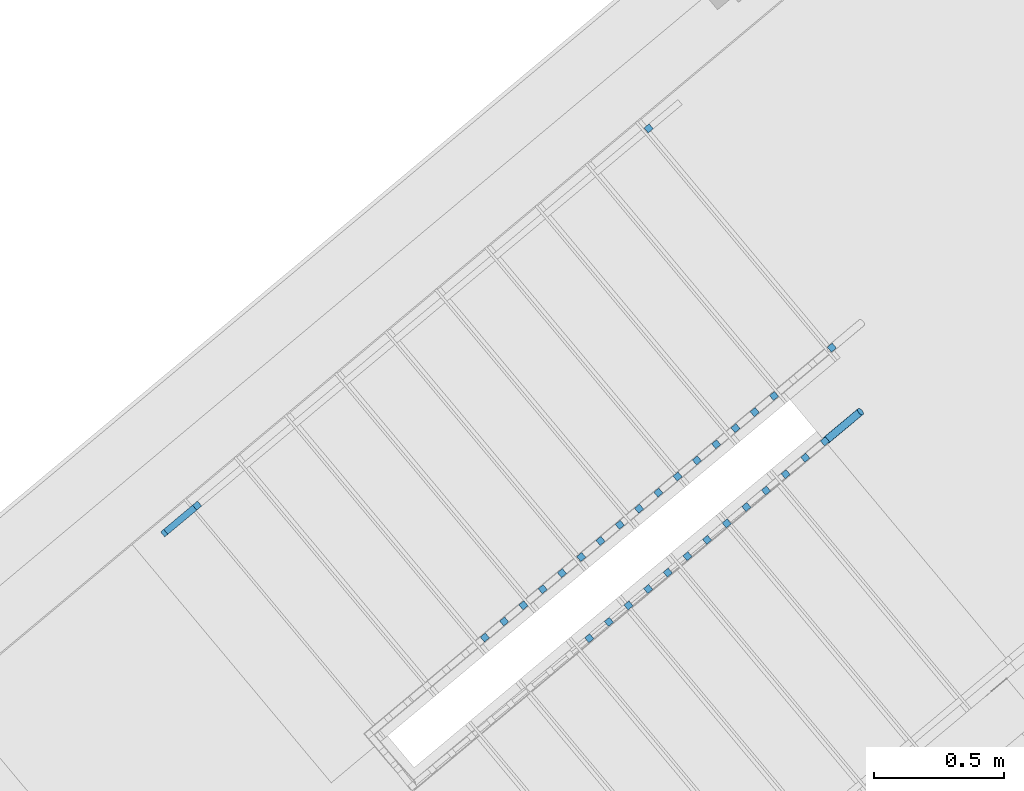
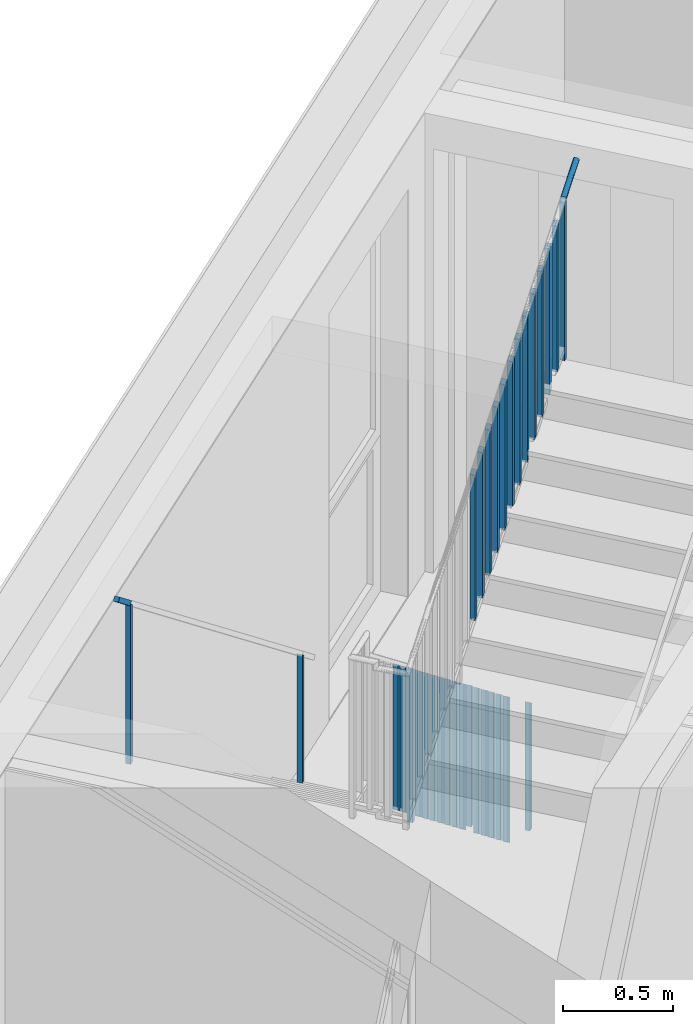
# One storey, part 46 of 58: 34 building element parts, 2 elements without a shape of their own.
"""IFC4 building model written with IfcOpenShell, lengths in metres."""

from ifc_helpers import new_model, entity, si_unit, converted_unit, derived_unit, direction, frame, origin_with_axes, place, context, subcontext, project, spatial, polygons, material, type_object, element, aggregate, save


model = new_model("IFC4")

# Units and contexts
model_context = context("Model", 3, precision=1e-05, world=origin_with_axes(), true_north=direction((0.0, 1.0)))
body_context = subcontext(model_context, "Body", "Model", "MODEL_VIEW")
ifc_project = project(units=[si_unit("LENGTHUNIT", "METRE"), si_unit("AREAUNIT", "SQUARE_METRE"), si_unit("VOLUMEUNIT", "CUBIC_METRE"), converted_unit("PLANEANGLEUNIT", "DEGREE", entity("IfcPlaneAngleMeasure", 0.0174532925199), si_unit("PLANEANGLEUNIT", "RADIAN"), dimensions=[0, 0, 0, 0, 0, 0, 0]), converted_unit("TIMEUNIT", "Year", entity("IfcTimeMeasure", 31556926.0), si_unit("TIMEUNIT", "SECOND"), dimensions=[0, 0, 1, 0, 0, 0, 0]), si_unit("MASSUNIT", "GRAM", prefix="KILO"), si_unit("THERMODYNAMICTEMPERATUREUNIT", "DEGREE_CELSIUS"), si_unit("LUMINOUSINTENSITYUNIT", "LUMEN"), si_unit("ENERGYUNIT", "JOULE", prefix="MEGA"), derived_unit("THERMALCONDUCTANCEUNIT", [(si_unit("POWERUNIT", "WATT"), 1), (si_unit("LENGTHUNIT", "METRE"), -1), (si_unit("THERMODYNAMICTEMPERATUREUNIT", "KELVIN"), -1)]), derived_unit("SPECIFICHEATCAPACITYUNIT", [(si_unit("ENERGYUNIT", "JOULE"), 1), (si_unit("MASSUNIT", "GRAM", prefix="KILO"), -1), (si_unit("THERMODYNAMICTEMPERATUREUNIT", "KELVIN"), -1)]), derived_unit("MASSDENSITYUNIT", [(si_unit("MASSUNIT", "GRAM", prefix="KILO"), 1), (si_unit("VOLUMEUNIT", "CUBIC_METRE"), -1)])], contexts=[model_context])

# Site, building, storey
site_placement = place(None, frame((-0.00153261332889, -0.00661245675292, 0.0), z_axis=(0.0, 0.0, 1.0), x_axis=(1.0, 0.0, 0.0)))
site = spatial("IfcSite", under=ifc_project, at=site_placement, Name="Site", CompositionType="ELEMENT")
building_placement = place(site_placement, origin_with_axes())
building = spatial("IfcBuilding", under=site, at=building_placement, Name="Building", CompositionType="ELEMENT")
storey_placement = place(building_placement, frame((0.0, 0.0, 5.7), z_axis=(0.0, 0.0, 1.0), x_axis=(1.0, 0.0, 0.0)))
storey = spatial("IfcBuildingStorey", under=building, at=storey_placement, Name="DG1", CompositionType="ELEMENT", Elevation=5.7)

# Railing, building element parts
railing_type = type_object("IfcRailingType", Name="Geländerart", PredefinedType="NOTDEFINED")
railing_1_placement = place(storey_placement, frame((-0.398547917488, 23.8355657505, 0.05), z_axis=(0.0, 0.0, 1.0), x_axis=(1.0, 0.0, 0.0)))
railing_1 = element("IfcRailing", 1, at=railing_1_placement, inside=storey, type_object=railing_type, Name="Geländer - 001", PredefinedType="NOTDEFINED")
ifc_material = material(Name="BEKLEIDUNG")
building_element_part_1_placement = place(railing_1_placement, origin_with_axes())
building_element_part_1 = element("IfcBuildingElementPart", 2, at=building_element_part_1_placement, material=ifc_material, Name="BEKLEIDUNG", PredefinedType="NOTDEFINED", context=body_context, shape_type="Tessellation", body=[
    polygons([(-0.0496656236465, 0.0399477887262, 0.177058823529), (-0.0336363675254, 0.0207628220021, 0.177058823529), (-0.0336363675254, 0.0207628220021, 0.889746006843), (-0.0496656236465, 0.0399477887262, 0.889746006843), (-0.0304806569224, 0.0559770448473, 0.177058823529), (-0.0144514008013, 0.0367920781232, 0.177058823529), (-0.0144514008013, 0.0367920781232, 0.870253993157), (-0.0304806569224, 0.0559770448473, 0.870253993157)], [[[1, 2, 3, 4]], [[1, 5, 6, 2]], [[2, 6, 7, 3]], [[4, 3, 7, 8]], [[5, 1, 4, 8]], [[6, 5, 8, 7]]], closed=True),
])
building_element_part_2_placement = place(railing_1_placement, origin_with_axes())
building_element_part_2 = element("IfcBuildingElementPart", 3, at=building_element_part_2_placement, material=ifc_material, Name="BEKLEIDUNG", PredefinedType="NOTDEFINED", context=body_context, shape_type="Tessellation", body=[
    polygons([(-0.0409350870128, -0.323945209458, 3.01), (-0.0569653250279, -0.30476106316, 3.01), (-0.0569653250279, -0.30476106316, 3.89767233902), (-0.0409350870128, -0.323945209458, 3.89767233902), (-0.0601192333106, -0.339975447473, 3.01), (-0.0761494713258, -0.320791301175, 3.01), (-0.0761494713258, -0.320791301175, 3.88232766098), (-0.0601192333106, -0.339975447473, 3.88232766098)], [[[1, 2, 3, 4]], [[1, 5, 6, 2]], [[2, 6, 7, 3]], [[4, 3, 7, 8]], [[5, 1, 4, 8]], [[6, 5, 8, 7]]], closed=True),
])
building_element_part_3_placement = place(railing_1_placement, origin_with_axes())
building_element_part_3 = element("IfcBuildingElementPart", 4, at=building_element_part_3_placement, material=ifc_material, Name="BEKLEIDUNG", PredefinedType="NOTDEFINED", context=body_context, shape_type="Tessellation", body=[
    polygons([(-0.0621391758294, -0.305826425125, 3.89721601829), (-0.0630386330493, -0.30687497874, 3.89943593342), (0.0677612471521, -0.197578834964, 4.00405784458), (0.068660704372, -0.196530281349, 4.00183792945), (-0.0609474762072, -0.305127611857, 3.89499610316), (-0.0594997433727, -0.304799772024, 3.89284363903), (-0.0578399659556, -0.304852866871, 3.89082402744), (-0.0560185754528, -0.305285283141, 3.88899863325), (-0.054090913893, -0.306083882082, 3.88742292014), (-0.0521155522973, -0.30722439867, 3.88614476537), (-0.0501525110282, -0.308672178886, 3.88520300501), (-0.0482614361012, -0.310383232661, 3.88462625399), (-0.0464997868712, -0.312305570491, 3.88443203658), (-0.0449210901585, -0.314380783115, 3.88462625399), (-0.043573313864, -0.316545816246, 3.88520300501), (-0.0424974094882, -0.318734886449, 3.88614476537), (-0.0417260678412, -0.320881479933, 3.88742292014), (-0.0412827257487, -0.322920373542, 3.88899863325), (-0.0411808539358, -0.324789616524, 3.89082402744), (-0.041423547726, -0.326432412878, 3.89284363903), (-0.0420034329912, -0.327798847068, 3.89499610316), (-0.0429028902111, -0.328847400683, 3.89721601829), (-0.0440945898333, -0.329546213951, 3.89943593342), (-0.0455423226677, -0.329874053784, 3.90158839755), (-0.0472021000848, -0.329820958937, 3.90360800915), (-0.0490234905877, -0.329388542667, 3.90543340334), (-0.0509511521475, -0.328589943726, 3.90700911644), (-0.0529265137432, -0.327449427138, 3.90828727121), (-0.0548895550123, -0.326001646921, 3.90922903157), (-0.0567806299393, -0.324290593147, 3.90980578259), (-0.0585422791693, -0.322368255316, 3.91), (-0.0601209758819, -0.320293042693, 3.90980578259), (-0.0614687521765, -0.318128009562, 3.90922903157), (-0.0625446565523, -0.315938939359, 3.90828727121), (-0.0633159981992, -0.313792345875, 3.90700911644), (-0.0637593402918, -0.311753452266, 3.90543340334), (-0.0638612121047, -0.309884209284, 3.90360800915), (-0.0636185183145, -0.30824141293, 3.90158839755), (0.0671813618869, -0.198945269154, 4.00621030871), (0.0669386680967, -0.200588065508, 4.00822992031), (0.0670405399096, -0.20245730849, 4.0100553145), (0.0674838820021, -0.204496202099, 4.0116310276), (0.0682552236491, -0.206642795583, 4.01290918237), (0.0693311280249, -0.208831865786, 4.01385094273), (0.0706789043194, -0.210996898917, 4.01442769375), (0.0722576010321, -0.213072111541, 4.01462191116), (0.0740192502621, -0.214994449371, 4.01442769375), (0.0759103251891, -0.216705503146, 4.01385094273), (0.0778733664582, -0.218153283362, 4.01290918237), (0.0798487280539, -0.21929379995, 4.0116310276), (0.0817763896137, -0.220092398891, 4.0100553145), (0.0835977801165, -0.220524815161, 4.00822992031), (0.0852575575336, -0.220577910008, 4.00621030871), (0.0867052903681, -0.220250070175, 4.00405784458), (0.0878969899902, -0.219551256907, 4.00183792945), (0.0887964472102, -0.218502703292, 3.99961801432), (0.0893763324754, -0.217136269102, 3.9974655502), (0.0896190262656, -0.215493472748, 3.9954459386), (0.0895171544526, -0.213624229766, 3.99362054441), (0.0890738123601, -0.211585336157, 3.9920448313), (0.0883024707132, -0.209438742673, 3.99076667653), (0.0872265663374, -0.20724967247, 3.98982491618), (0.0858787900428, -0.205084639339, 3.98924816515), (0.0843000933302, -0.203009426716, 3.98905394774), (0.0825384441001, -0.201087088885, 3.98924816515), (0.0806473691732, -0.199376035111, 3.98982491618), (0.0786843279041, -0.197928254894, 3.99076667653), (0.0767089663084, -0.196787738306, 3.9920448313), (0.0747813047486, -0.195989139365, 3.99362054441), (0.0729599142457, -0.195556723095, 3.9954459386), (0.0713001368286, -0.195503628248, 3.9974655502), (0.0698524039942, -0.195831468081, 3.99961801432)], [[[1, 2, 3, 4]], [[1, 5, 6, 7, 8, 9, 10, 11, 12, 13, 14, 15, 16, 17, 18, 19, 20, 21, 22, 23, 24, 25, 26, 27, 28, 29, 30, 31, 32, 33, 34, 35, 36, 37, 38, 2]], [[2, 38, 39, 3]], [[4, 3, 39, 40, 41, 42, 43, 44, 45, 46, 47, 48, 49, 50, 51, 52, 53, 54, 55, 56, 57, 58, 59, 60, 61, 62, 63, 64, 65, 66, 67, 68, 69, 70, 71, 72]], [[5, 1, 4, 72]], [[6, 5, 72, 71]], [[7, 6, 71, 70]], [[8, 7, 70, 69]], [[9, 8, 69, 68]], [[10, 9, 68, 67]], [[11, 10, 67, 66]], [[12, 11, 66, 65]], [[13, 12, 65, 64]], [[14, 13, 64, 63]], [[15, 14, 63, 62]], [[16, 15, 62, 61]], [[17, 16, 61, 60]], [[18, 17, 60, 59]], [[19, 18, 59, 58]], [[20, 19, 58, 57]], [[21, 20, 57, 56]], [[22, 21, 56, 55]], [[23, 22, 55, 54]], [[24, 23, 54, 53]], [[25, 24, 53, 52]], [[26, 25, 52, 51]], [[27, 26, 51, 50]], [[28, 27, 50, 49]], [[29, 28, 49, 48]], [[30, 29, 48, 47]], [[31, 30, 47, 46]], [[32, 31, 46, 45]], [[33, 32, 45, 44]], [[34, 33, 44, 43]], [[35, 34, 43, 42]], [[36, 35, 42, 41]], [[37, 36, 41, 40]], [[38, 37, 40, 39]]], closed=True),
])
building_element_part_4_placement = place(railing_1_placement, origin_with_axes())
building_element_part_4 = element("IfcBuildingElementPart", 5, at=building_element_part_4_placement, material=ifc_material, Name="BEKLEIDUNG", PredefinedType="NOTDEFINED", context=body_context, shape_type="Tessellation", body=[
    polygons([(-0.272299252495, -0.146065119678, 0.30594278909), (-0.256269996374, -0.165250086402, 0.30594278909), (-0.256269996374, -0.165250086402, 1.11344278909), (-0.272299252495, -0.146065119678, 1.11344278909), (-0.253114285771, -0.130035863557, 0.286450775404), (-0.23708502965, -0.149220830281, 0.286450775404), (-0.23708502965, -0.149220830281, 1.0939507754), (-0.253114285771, -0.130035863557, 1.0939507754)], [[[1, 2, 3, 4]], [[1, 5, 6, 2]], [[2, 6, 7, 3]], [[4, 3, 7, 8]], [[5, 1, 4, 8]], [[6, 5, 8, 7]]], closed=True),
])
building_element_part_5_placement = place(railing_1_placement, origin_with_axes())
building_element_part_5 = element("IfcBuildingElementPart", 6, at=building_element_part_5_placement, material=ifc_material, Name="BEKLEIDUNG", PredefinedType="NOTDEFINED", context=body_context, shape_type="Tessellation", body=[
    polygons([(-0.346510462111, -0.20806942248, 0.381341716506), (-0.33048120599, -0.227254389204, 0.381341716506), (-0.33048120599, -0.227254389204, 1.18884171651), (-0.346510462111, -0.20806942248, 1.18884171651), (-0.327325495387, -0.192040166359, 0.36184970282), (-0.311296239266, -0.211225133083, 0.36184970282), (-0.311296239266, -0.211225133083, 1.16934970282), (-0.327325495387, -0.192040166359, 1.16934970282)], [[[1, 2, 3, 4]], [[1, 5, 6, 2]], [[2, 6, 7, 3]], [[4, 3, 7, 8]], [[5, 1, 4, 8]], [[6, 5, 8, 7]]], closed=True),
])
building_element_part_6_placement = place(railing_1_placement, origin_with_axes())
building_element_part_6 = element("IfcBuildingElementPart", 7, at=building_element_part_6_placement, material=ifc_material, Name="BEKLEIDUNG", PredefinedType="NOTDEFINED", context=body_context, shape_type="Tessellation", body=[
    polygons([(-0.420721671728, -0.270073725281, 0.456740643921), (-0.404692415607, -0.289258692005, 0.456740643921), (-0.404692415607, -0.289258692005, 1.26424064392), (-0.420721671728, -0.270073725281, 1.26424064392), (-0.401536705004, -0.25404446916, 0.437248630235), (-0.385507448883, -0.273229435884, 0.437248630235), (-0.385507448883, -0.273229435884, 1.24474863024), (-0.401536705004, -0.25404446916, 1.24474863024)], [[[1, 2, 3, 4]], [[1, 5, 6, 2]], [[2, 6, 7, 3]], [[4, 3, 7, 8]], [[5, 1, 4, 8]], [[6, 5, 8, 7]]], closed=True),
])
building_element_part_7_placement = place(railing_1_placement, origin_with_axes())
building_element_part_7 = element("IfcBuildingElementPart", 8, at=building_element_part_7_placement, material=ifc_material, Name="BEKLEIDUNG", PredefinedType="NOTDEFINED", context=body_context, shape_type="Tessellation", body=[
    polygons([(-0.494932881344, -0.332078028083, 0.532139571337), (-0.478903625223, -0.351262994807, 0.532139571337), (-0.478903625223, -0.351262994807, 1.33963957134), (-0.494932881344, -0.332078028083, 1.33963957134), (-0.47574791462, -0.316048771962, 0.512647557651), (-0.459718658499, -0.335233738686, 0.512647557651), (-0.459718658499, -0.335233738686, 1.32014755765), (-0.47574791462, -0.316048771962, 1.32014755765)], [[[1, 2, 3, 4]], [[1, 5, 6, 2]], [[2, 6, 7, 3]], [[4, 3, 7, 8]], [[5, 1, 4, 8]], [[6, 5, 8, 7]]], closed=True),
])
building_element_part_8_placement = place(railing_1_placement, origin_with_axes())
building_element_part_8 = element("IfcBuildingElementPart", 9, at=building_element_part_8_placement, material=ifc_material, Name="BEKLEIDUNG", PredefinedType="NOTDEFINED", context=body_context, shape_type="Tessellation", body=[
    polygons([(-0.56914409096, -0.394082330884, 0.607538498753), (-0.553114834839, -0.413267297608, 0.607538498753), (-0.553114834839, -0.413267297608, 1.41503849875), (-0.56914409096, -0.394082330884, 1.41503849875), (-0.549959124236, -0.378053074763, 0.588046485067), (-0.533929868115, -0.397238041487, 0.588046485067), (-0.533929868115, -0.397238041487, 1.39554648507), (-0.549959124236, -0.378053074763, 1.39554648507)], [[[1, 2, 3, 4]], [[1, 5, 6, 2]], [[2, 6, 7, 3]], [[4, 3, 7, 8]], [[5, 1, 4, 8]], [[6, 5, 8, 7]]], closed=True),
])
building_element_part_9_placement = place(railing_1_placement, origin_with_axes())
building_element_part_9 = element("IfcBuildingElementPart", 10, at=building_element_part_9_placement, material=ifc_material, Name="BEKLEIDUNG", PredefinedType="NOTDEFINED", context=body_context, shape_type="Tessellation", body=[
    polygons([(-0.643355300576, -0.456086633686, 0.708235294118), (-0.627326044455, -0.47527160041, 0.708235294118), (-0.627326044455, -0.47527160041, 1.49293742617), (-0.643355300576, -0.456086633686, 1.49293742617), (-0.624170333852, -0.440057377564, 0.708235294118), (-0.608141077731, -0.459242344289, 0.708235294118), (-0.608141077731, -0.459242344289, 1.47344541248), (-0.624170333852, -0.440057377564, 1.47344541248)], [[[1, 2, 3, 4]], [[1, 5, 6, 2]], [[2, 6, 7, 3]], [[4, 3, 7, 8]], [[5, 1, 4, 8]], [[6, 5, 8, 7]]], closed=True),
])
building_element_part_10_placement = place(railing_1_placement, origin_with_axes())
building_element_part_10 = element("IfcBuildingElementPart", 11, at=building_element_part_10_placement, material=ifc_material, Name="BEKLEIDUNG", PredefinedType="NOTDEFINED", context=body_context, shape_type="Tessellation", body=[
    polygons([(-0.717566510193, -0.518090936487, 0.758336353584), (-0.701537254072, -0.537275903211, 0.758336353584), (-0.701537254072, -0.537275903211, 1.56583635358), (-0.717566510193, -0.518090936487, 1.56583635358), (-0.698381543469, -0.502061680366, 0.738844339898), (-0.682352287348, -0.52124664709, 0.738844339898), (-0.682352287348, -0.52124664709, 1.5463443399), (-0.698381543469, -0.502061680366, 1.5463443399)], [[[1, 2, 3, 4]], [[1, 5, 6, 2]], [[2, 6, 7, 3]], [[4, 3, 7, 8]], [[5, 1, 4, 8]], [[6, 5, 8, 7]]], closed=True),
])
building_element_part_11_placement = place(railing_1_placement, origin_with_axes())
building_element_part_11 = element("IfcBuildingElementPart", 12, at=building_element_part_11_placement, material=ifc_material, Name="BEKLEIDUNG", PredefinedType="NOTDEFINED", context=body_context, shape_type="Tessellation", body=[
    polygons([(-0.791777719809, -0.580095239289, 0.833735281), (-0.775748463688, -0.599280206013, 0.833735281), (-0.775748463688, -0.599280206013, 1.641235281), (-0.791777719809, -0.580095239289, 1.641235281), (-0.772592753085, -0.564065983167, 0.814243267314), (-0.756563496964, -0.583250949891, 0.814243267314), (-0.756563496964, -0.583250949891, 1.62174326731), (-0.772592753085, -0.564065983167, 1.62174326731)], [[[1, 2, 3, 4]], [[1, 5, 6, 2]], [[2, 6, 7, 3]], [[4, 3, 7, 8]], [[5, 1, 4, 8]], [[6, 5, 8, 7]]], closed=True),
])
building_element_part_12_placement = place(railing_1_placement, origin_with_axes())
building_element_part_12 = element("IfcBuildingElementPart", 13, at=building_element_part_12_placement, material=ifc_material, Name="BEKLEIDUNG", PredefinedType="NOTDEFINED", context=body_context, shape_type="Tessellation", body=[
    polygons([(-0.865988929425, -0.64209954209, 0.909134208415), (-0.849959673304, -0.661284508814, 0.909134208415), (-0.849959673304, -0.661284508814, 1.71663420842), (-0.865988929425, -0.64209954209, 1.71663420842), (-0.846803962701, -0.626070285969, 0.889642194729), (-0.83077470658, -0.645255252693, 0.889642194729), (-0.83077470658, -0.645255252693, 1.69714219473), (-0.846803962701, -0.626070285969, 1.69714219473)], [[[1, 2, 3, 4]], [[1, 5, 6, 2]], [[2, 6, 7, 3]], [[4, 3, 7, 8]], [[5, 1, 4, 8]], [[6, 5, 8, 7]]], closed=True),
])
building_element_part_13_placement = place(railing_1_placement, origin_with_axes())
building_element_part_13 = element("IfcBuildingElementPart", 14, at=building_element_part_13_placement, material=ifc_material, Name="BEKLEIDUNG", PredefinedType="NOTDEFINED", context=body_context, shape_type="Tessellation", body=[
    polygons([(-0.940200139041, -0.704103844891, 0.984533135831), (-0.92417088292, -0.723288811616, 0.984533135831), (-0.92417088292, -0.723288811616, 1.79203313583), (-0.940200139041, -0.704103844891, 1.79203313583), (-0.921015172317, -0.68807458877, 0.965041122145), (-0.904985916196, -0.707259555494, 0.965041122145), (-0.904985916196, -0.707259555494, 1.77254112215), (-0.921015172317, -0.68807458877, 1.77254112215)], [[[1, 2, 3, 4]], [[1, 5, 6, 2]], [[2, 6, 7, 3]], [[4, 3, 7, 8]], [[5, 1, 4, 8]], [[6, 5, 8, 7]]], closed=True),
])
building_element_part_14_placement = place(railing_1_placement, origin_with_axes())
building_element_part_14 = element("IfcBuildingElementPart", 15, at=building_element_part_14_placement, material=ifc_material, Name="BEKLEIDUNG", PredefinedType="NOTDEFINED", context=body_context, shape_type="Tessellation", body=[
    polygons([(-1.01441134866, -0.766108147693, 1.05993206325), (-0.998382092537, -0.785293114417, 1.05993206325), (-0.998382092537, -0.785293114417, 1.86743206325), (-1.01441134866, -0.766108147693, 1.86743206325), (-0.995226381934, -0.750078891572, 1.04044004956), (-0.979197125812, -0.769263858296, 1.04044004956), (-0.979197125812, -0.769263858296, 1.84794004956), (-0.995226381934, -0.750078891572, 1.84794004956)], [[[1, 2, 3, 4]], [[1, 5, 6, 2]], [[2, 6, 7, 3]], [[4, 3, 7, 8]], [[5, 1, 4, 8]], [[6, 5, 8, 7]]], closed=True),
])
building_element_part_15_placement = place(railing_1_placement, origin_with_axes())
building_element_part_15 = element("IfcBuildingElementPart", 16, at=building_element_part_15_placement, material=ifc_material, Name="BEKLEIDUNG", PredefinedType="NOTDEFINED", context=body_context, shape_type="Tessellation", body=[
    polygons([(-1.08862255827, -0.828112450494, 1.13533099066), (-1.07259330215, -0.847297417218, 1.13533099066), (-1.07259330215, -0.847297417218, 1.94283099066), (-1.08862255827, -0.828112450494, 1.94283099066), (-1.06943759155, -0.812083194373, 1.11583897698), (-1.05340833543, -0.831268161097, 1.11583897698), (-1.05340833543, -0.831268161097, 1.92333897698), (-1.06943759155, -0.812083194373, 1.92333897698)], [[[1, 2, 3, 4]], [[1, 5, 6, 2]], [[2, 6, 7, 3]], [[4, 3, 7, 8]], [[5, 1, 4, 8]], [[6, 5, 8, 7]]], closed=True),
])
building_element_part_16_placement = place(railing_1_placement, origin_with_axes())
building_element_part_16 = element("IfcBuildingElementPart", 17, at=building_element_part_16_placement, material=ifc_material, Name="BEKLEIDUNG", PredefinedType="NOTDEFINED", context=body_context, shape_type="Tessellation", body=[
    polygons([(-1.16283376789, -0.890116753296, 1.21072991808), (-1.14680451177, -0.90930172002, 1.21072991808), (-1.14680451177, -0.90930172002, 2.01822991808), (-1.16283376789, -0.890116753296, 2.01822991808), (-1.14364880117, -0.874087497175, 1.19123790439), (-1.12761954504, -0.893272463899, 1.19123790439), (-1.12761954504, -0.893272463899, 1.99873790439), (-1.14364880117, -0.874087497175, 1.99873790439)], [[[1, 2, 3, 4]], [[1, 5, 6, 2]], [[2, 6, 7, 3]], [[4, 3, 7, 8]], [[5, 1, 4, 8]], [[6, 5, 8, 7]]], closed=True),
])
building_element_part_17_placement = place(railing_1_placement, origin_with_axes())
building_element_part_17 = element("IfcBuildingElementPart", 18, at=building_element_part_17_placement, material=ifc_material, Name="BEKLEIDUNG", PredefinedType="NOTDEFINED", context=body_context, shape_type="Tessellation", body=[
    polygons([(-1.23704497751, -0.952121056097, 1.23941176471), (-1.22101572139, -0.971306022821, 1.23941176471), (-1.22101572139, -0.971306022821, 2.09612884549), (-1.23704497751, -0.952121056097, 2.09612884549), (-1.21786001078, -0.936091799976, 1.23941176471), (-1.20183075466, -0.9552767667, 1.23941176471), (-1.20183075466, -0.9552767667, 2.07663683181), (-1.21786001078, -0.936091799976, 2.07663683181)], [[[1, 2, 3, 4]], [[1, 5, 6, 2]], [[2, 6, 7, 3]], [[4, 3, 7, 8]], [[5, 1, 4, 8]], [[6, 5, 8, 7]]], closed=True),
])
building_element_part_18_placement = place(railing_1_placement, origin_with_axes())
building_element_part_18 = element("IfcBuildingElementPart", 19, at=building_element_part_18_placement, material=ifc_material, Name="BEKLEIDUNG", PredefinedType="NOTDEFINED", context=body_context, shape_type="Tessellation", body=[
    polygons([(-1.31125618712, -1.0141253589, 1.36152777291), (-1.295226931, -1.03331032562, 1.36152777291), (-1.295226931, -1.03331032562, 2.16902777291), (-1.31125618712, -1.0141253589, 2.16902777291), (-1.2920712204, -0.998096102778, 1.34203575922), (-1.27604196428, -1.0172810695, 1.34203575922), (-1.27604196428, -1.0172810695, 2.14953575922), (-1.2920712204, -0.998096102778, 2.14953575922)], [[[1, 2, 3, 4]], [[1, 5, 6, 2]], [[2, 6, 7, 3]], [[4, 3, 7, 8]], [[5, 1, 4, 8]], [[6, 5, 8, 7]]], closed=True),
])
building_element_part_19_placement = place(railing_1_placement, origin_with_axes())
building_element_part_19 = element("IfcBuildingElementPart", 20, at=building_element_part_19_placement, material=ifc_material, Name="BEKLEIDUNG", PredefinedType="NOTDEFINED", context=body_context, shape_type="Tessellation", body=[
    polygons([(-1.38546739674, -1.0761296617, 1.43692670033), (-1.36943814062, -1.09531462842, 1.43692670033), (-1.36943814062, -1.09531462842, 2.24442670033), (-1.38546739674, -1.0761296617, 2.24442670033), (-1.36628243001, -1.06010040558, 1.41743468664), (-1.35025317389, -1.0792853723, 1.41743468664), (-1.35025317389, -1.0792853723, 2.22493468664), (-1.36628243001, -1.06010040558, 2.22493468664)], [[[1, 2, 3, 4]], [[1, 5, 6, 2]], [[2, 6, 7, 3]], [[4, 3, 7, 8]], [[5, 1, 4, 8]], [[6, 5, 8, 7]]], closed=True),
])
building_element_part_20_placement = place(railing_1_placement, origin_with_axes())
building_element_part_20 = element("IfcBuildingElementPart", 21, at=building_element_part_20_placement, material=ifc_material, Name="BEKLEIDUNG", PredefinedType="NOTDEFINED", context=body_context, shape_type="Tessellation", body=[
    polygons([(-0.948306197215, -1.08214287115, 2.36190027), (-0.96433643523, -1.06295872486, 2.36190027), (-0.96433643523, -1.06295872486, 3.16940027), (-0.948306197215, -1.08214287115, 3.16940027), (-0.967490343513, -1.09817310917, 2.34655559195), (-0.983520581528, -1.07898896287, 2.34655559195), (-0.983520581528, -1.07898896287, 3.15405559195), (-0.967490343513, -1.09817310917, 3.15405559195)], [[[1, 2, 3, 4]], [[1, 5, 6, 2]], [[2, 6, 7, 3]], [[4, 3, 7, 8]], [[5, 1, 4, 8]], [[6, 5, 8, 7]]], closed=True),
])
building_element_part_21_placement = place(railing_1_placement, origin_with_axes())
building_element_part_21 = element("IfcBuildingElementPart", 22, at=building_element_part_21_placement, material=ifc_material, Name="BEKLEIDUNG", PredefinedType="NOTDEFINED", context=body_context, shape_type="Tessellation", body=[
    polygons([(-0.872691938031, -1.01895973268, 2.42238127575), (-0.888722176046, -0.999775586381, 2.42238127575), (-0.888722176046, -0.999775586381, 3.22988127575), (-0.872691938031, -1.01895973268, 3.22988127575), (-0.891876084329, -1.03498997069, 2.40703659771), (-0.907906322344, -1.0158058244, 2.40703659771), (-0.907906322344, -1.0158058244, 3.21453659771), (-0.891876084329, -1.03498997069, 3.21453659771)], [[[1, 2, 3, 4]], [[1, 5, 6, 2]], [[2, 6, 7, 3]], [[4, 3, 7, 8]], [[5, 1, 4, 8]], [[6, 5, 8, 7]]], closed=True),
])
building_element_part_22_placement = place(railing_1_placement, origin_with_axes())
building_element_part_22 = element("IfcBuildingElementPart", 23, at=building_element_part_22_placement, material=ifc_material, Name="BEKLEIDUNG", PredefinedType="NOTDEFINED", context=body_context, shape_type="Tessellation", body=[
    polygons([(-0.797077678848, -0.955776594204, 2.4828622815), (-0.813107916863, -0.936592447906, 2.4828622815), (-0.813107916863, -0.936592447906, 3.2903622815), (-0.797077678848, -0.955776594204, 3.2903622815), (-0.816261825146, -0.971806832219, 2.46751760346), (-0.832292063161, -0.952622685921, 2.46751760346), (-0.832292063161, -0.952622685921, 3.27501760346), (-0.816261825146, -0.971806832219, 3.27501760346)], [[[1, 2, 3, 4]], [[1, 5, 6, 2]], [[2, 6, 7, 3]], [[4, 3, 7, 8]], [[5, 1, 4, 8]], [[6, 5, 8, 7]]], closed=True),
])
building_element_part_23_placement = place(railing_1_placement, origin_with_axes())
building_element_part_23 = element("IfcBuildingElementPart", 24, at=building_element_part_23_placement, material=ifc_material, Name="BEKLEIDUNG", PredefinedType="NOTDEFINED", context=body_context, shape_type="Tessellation", body=[
    polygons([(-0.721463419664, -0.892593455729, 2.54334328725), (-0.737493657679, -0.873409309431, 2.54334328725), (-0.737493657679, -0.873409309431, 3.35084328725), (-0.721463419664, -0.892593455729, 3.35084328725), (-0.740647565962, -0.908623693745, 2.52799860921), (-0.756677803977, -0.889439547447, 2.52799860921), (-0.756677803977, -0.889439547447, 3.33549860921), (-0.740647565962, -0.908623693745, 3.33549860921)], [[[1, 2, 3, 4]], [[1, 5, 6, 2]], [[2, 6, 7, 3]], [[4, 3, 7, 8]], [[5, 1, 4, 8]], [[6, 5, 8, 7]]], closed=True),
])
building_element_part_24_placement = place(railing_1_placement, origin_with_axes())
building_element_part_24 = element("IfcBuildingElementPart", 25, at=building_element_part_24_placement, material=ifc_material, Name="BEKLEIDUNG", PredefinedType="NOTDEFINED", context=body_context, shape_type="Tessellation", body=[
    polygons([(-0.645849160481, -0.829410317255, 2.60382429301), (-0.661879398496, -0.810226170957, 2.60382429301), (-0.661879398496, -0.810226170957, 3.41132429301), (-0.645849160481, -0.829410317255, 3.41132429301), (-0.665033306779, -0.84544055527, 2.58847961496), (-0.681063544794, -0.826256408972, 2.58847961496), (-0.681063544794, -0.826256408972, 3.39597961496), (-0.665033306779, -0.84544055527, 3.39597961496)], [[[1, 2, 3, 4]], [[1, 5, 6, 2]], [[2, 6, 7, 3]], [[4, 3, 7, 8]], [[5, 1, 4, 8]], [[6, 5, 8, 7]]], closed=True),
])
building_element_part_25_placement = place(railing_1_placement, origin_with_axes())
building_element_part_25 = element("IfcBuildingElementPart", 26, at=building_element_part_25_placement, material=ifc_material, Name="BEKLEIDUNG", PredefinedType="NOTDEFINED", context=body_context, shape_type="Tessellation", body=[
    polygons([(-0.570234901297, -0.76622717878, 2.65588235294), (-0.586265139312, -0.747043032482, 2.65588235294), (-0.586265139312, -0.747043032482, 3.47430529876), (-0.570234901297, -0.76622717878, 3.47430529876), (-0.589419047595, -0.782257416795, 2.65588235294), (-0.60544928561, -0.763073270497, 2.65588235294), (-0.60544928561, -0.763073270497, 3.45896062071), (-0.589419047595, -0.782257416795, 3.45896062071)], [[[1, 2, 3, 4]], [[1, 5, 6, 2]], [[2, 6, 7, 3]], [[4, 3, 7, 8]], [[5, 1, 4, 8]], [[6, 5, 8, 7]]], closed=True),
])
building_element_part_26_placement = place(railing_1_placement, origin_with_axes())
building_element_part_26 = element("IfcBuildingElementPart", 27, at=building_element_part_26_placement, material=ifc_material, Name="BEKLEIDUNG", PredefinedType="NOTDEFINED", context=body_context, shape_type="Tessellation", body=[
    polygons([(-0.494620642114, -0.703044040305, 2.72478630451), (-0.510650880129, -0.683859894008, 2.72478630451), (-0.510650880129, -0.683859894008, 3.53228630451), (-0.494620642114, -0.703044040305, 3.53228630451), (-0.513804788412, -0.719074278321, 2.70944162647), (-0.529835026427, -0.699890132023, 2.70944162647), (-0.529835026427, -0.699890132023, 3.51694162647), (-0.513804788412, -0.719074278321, 3.51694162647)], [[[1, 2, 3, 4]], [[1, 5, 6, 2]], [[2, 6, 7, 3]], [[4, 3, 7, 8]], [[5, 1, 4, 8]], [[6, 5, 8, 7]]], closed=True),
])
building_element_part_27_placement = place(railing_1_placement, origin_with_axes())
building_element_part_27 = element("IfcBuildingElementPart", 28, at=building_element_part_27_placement, material=ifc_material, Name="BEKLEIDUNG", PredefinedType="NOTDEFINED", context=body_context, shape_type="Tessellation", body=[
    polygons([(-0.41900638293, -0.639860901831, 2.78526731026), (-0.435036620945, -0.620676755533, 2.78526731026), (-0.435036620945, -0.620676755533, 3.59276731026), (-0.41900638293, -0.639860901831, 3.59276731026), (-0.438190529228, -0.655891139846, 2.76992263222), (-0.454220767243, -0.636706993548, 2.76992263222), (-0.454220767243, -0.636706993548, 3.57742263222), (-0.438190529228, -0.655891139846, 3.57742263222)], [[[1, 2, 3, 4]], [[1, 5, 6, 2]], [[2, 6, 7, 3]], [[4, 3, 7, 8]], [[5, 1, 4, 8]], [[6, 5, 8, 7]]], closed=True),
])
building_element_part_28_placement = place(railing_1_placement, origin_with_axes())
building_element_part_28 = element("IfcBuildingElementPart", 29, at=building_element_part_28_placement, material=ifc_material, Name="BEKLEIDUNG", PredefinedType="NOTDEFINED", context=body_context, shape_type="Tessellation", body=[
    polygons([(-0.343392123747, -0.576677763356, 2.84574831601), (-0.359422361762, -0.557493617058, 2.84574831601), (-0.359422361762, -0.557493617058, 3.65324831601), (-0.343392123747, -0.576677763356, 3.65324831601), (-0.362576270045, -0.592708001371, 2.83040363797), (-0.37860650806, -0.573523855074, 2.83040363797), (-0.37860650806, -0.573523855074, 3.63790363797), (-0.362576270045, -0.592708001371, 3.63790363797)], [[[1, 2, 3, 4]], [[1, 5, 6, 2]], [[2, 6, 7, 3]], [[4, 3, 7, 8]], [[5, 1, 4, 8]], [[6, 5, 8, 7]]], closed=True),
])
building_element_part_29_placement = place(railing_1_placement, origin_with_axes())
building_element_part_29 = element("IfcBuildingElementPart", 30, at=building_element_part_29_placement, material=ifc_material, Name="BEKLEIDUNG", PredefinedType="NOTDEFINED", context=body_context, shape_type="Tessellation", body=[
    polygons([(-0.267777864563, -0.513494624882, 2.90622932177), (-0.283808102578, -0.494310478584, 2.90622932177), (-0.283808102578, -0.494310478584, 3.71372932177), (-0.267777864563, -0.513494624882, 3.71372932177), (-0.286962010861, -0.529524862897, 2.89088464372), (-0.302992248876, -0.510340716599, 2.89088464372), (-0.302992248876, -0.510340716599, 3.69838464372), (-0.286962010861, -0.529524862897, 3.69838464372)], [[[1, 2, 3, 4]], [[1, 5, 6, 2]], [[2, 6, 7, 3]], [[4, 3, 7, 8]], [[5, 1, 4, 8]], [[6, 5, 8, 7]]], closed=True),
])
building_element_part_30_placement = place(railing_1_placement, origin_with_axes())
building_element_part_30 = element("IfcBuildingElementPart", 31, at=building_element_part_30_placement, material=ifc_material, Name="BEKLEIDUNG", PredefinedType="NOTDEFINED", context=body_context, shape_type="Tessellation", body=[
    polygons([(-0.19216360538, -0.450311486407, 2.96671032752), (-0.208193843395, -0.431127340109, 2.96671032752), (-0.208193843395, -0.431127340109, 3.77421032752), (-0.19216360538, -0.450311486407, 3.77421032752), (-0.211347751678, -0.466341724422, 2.95136564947), (-0.227377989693, -0.447157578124, 2.95136564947), (-0.227377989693, -0.447157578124, 3.75886564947), (-0.211347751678, -0.466341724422, 3.75886564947)], [[[1, 2, 3, 4]], [[1, 5, 6, 2]], [[2, 6, 7, 3]], [[4, 3, 7, 8]], [[5, 1, 4, 8]], [[6, 5, 8, 7]]], closed=True),
])
building_element_part_31_placement = place(railing_1_placement, origin_with_axes())
building_element_part_31 = element("IfcBuildingElementPart", 32, at=building_element_part_31_placement, material=ifc_material, Name="BEKLEIDUNG", PredefinedType="NOTDEFINED", context=body_context, shape_type="Tessellation", body=[
    polygons([(-0.116549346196, -0.387128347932, 3.02719133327), (-0.132579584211, -0.367944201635, 3.02719133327), (-0.132579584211, -0.367944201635, 3.83469133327), (-0.116549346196, -0.387128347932, 3.83469133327), (-0.135733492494, -0.403158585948, 3.01184665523), (-0.151763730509, -0.38397443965, 3.01184665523), (-0.151763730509, -0.38397443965, 3.81934665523), (-0.135733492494, -0.403158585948, 3.81934665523)], [[[1, 2, 3, 4]], [[1, 5, 6, 2]], [[2, 6, 7, 3]], [[4, 3, 7, 8]], [[5, 1, 4, 8]], [[6, 5, 8, 7]]], closed=True),
])
aggregate(railing_1, [building_element_part_1, building_element_part_2, building_element_part_3, building_element_part_4, building_element_part_5, building_element_part_6, building_element_part_7, building_element_part_8, building_element_part_9, building_element_part_10, building_element_part_11, building_element_part_12, building_element_part_13, building_element_part_14, building_element_part_15, building_element_part_16, building_element_part_17, building_element_part_18, building_element_part_19, building_element_part_20, building_element_part_21, building_element_part_22, building_element_part_23, building_element_part_24, building_element_part_25, building_element_part_26, building_element_part_27, building_element_part_28, building_element_part_29, building_element_part_30, building_element_part_31])

railing_2_placement = place(storey_placement, frame((-1.16795221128, 24.7564441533, 0.05), z_axis=(0.0, 0.0, 1.0), x_axis=(1.0, 0.0, 0.0)))
railing_2 = element("IfcRailing", 33, at=railing_2_placement, inside=storey, type_object=railing_type, Name="Geländer - 001", PredefinedType="NOTDEFINED")
building_element_part_32_placement = place(railing_2_placement, origin_with_axes())
building_element_part_32 = element("IfcBuildingElementPart", 34, at=building_element_part_32_placement, material=ifc_material, Name="BEKLEIDUNG", PredefinedType="NOTDEFINED", context=body_context, shape_type="Tessellation", body=[
    polygons([(0.0144514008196, -0.0367920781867, 0.177058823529), (0.0304806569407, -0.0559770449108, 0.177058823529), (0.0304806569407, -0.0559770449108, 0.88977053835), (0.0144514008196, -0.0367920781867, 0.88977053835), (0.0336363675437, -0.0207628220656, 0.177058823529), (0.0496656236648, -0.0399477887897, 0.177058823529), (0.0496656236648, -0.0399477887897, 0.87022946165), (0.0336363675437, -0.0207628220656, 0.87022946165)], [[[1, 2, 3, 4]], [[1, 5, 6, 2]], [[2, 6, 7, 3]], [[4, 3, 7, 8]], [[5, 1, 4, 8]], [[6, 5, 8, 7]]], closed=True),
])
building_element_part_33_placement = place(railing_2_placement, origin_with_axes())
building_element_part_33 = element("IfcBuildingElementPart", 35, at=building_element_part_33_placement, material=ifc_material, Name="BEKLEIDUNG", PredefinedType="NOTDEFINED", context=body_context, shape_type="Tessellation", body=[
    polygons([(-1.7238702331, -1.48917941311, 1.77058823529), (-1.70784097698, -1.50836437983, 1.77058823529), (-1.70784097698, -1.50836437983, 2.66035877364), (-1.7238702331, -1.48917941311, 2.66035877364), (-1.70468526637, -1.47315015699, 1.77058823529), (-1.68865601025, -1.49233512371, 1.77058823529), (-1.68865601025, -1.49233512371, 2.64081769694), (-1.70468526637, -1.47315015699, 2.64081769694)], [[[1, 2, 3, 4]], [[1, 5, 6, 2]], [[2, 6, 7, 3]], [[4, 3, 7, 8]], [[5, 1, 4, 8]], [[6, 5, 8, 7]]], closed=True),
])
building_element_part_34_placement = place(railing_2_placement, origin_with_axes())
building_element_part_34 = element("IfcBuildingElementPart", 36, at=building_element_part_34_placement, material=ifc_material, Name="BEKLEIDUNG", PredefinedType="NOTDEFINED", context=body_context, shape_type="Tessellation", body=[
    polygons([(-1.71427774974, -1.48116478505, 2.67058823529), (-1.72609254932, -1.49103618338, 2.65089138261), (-1.84701525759, -1.59206847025, 2.77405864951), (-1.835200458, -1.58219707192, 2.79375550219), (-1.69824849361, -1.50034975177, 2.67058823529), (-1.7100632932, -1.5102211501, 2.65089138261), (-1.83098600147, -1.61125343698, 2.77405864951), (-1.81917120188, -1.60138203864, 2.79375550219)], [[[1, 2, 3, 4]], [[1, 5, 6, 2]], [[2, 6, 7, 3]], [[4, 3, 7, 8]], [[5, 1, 4, 8]], [[6, 5, 8, 7]]], closed=True),
])
aggregate(railing_2, [building_element_part_32, building_element_part_33, building_element_part_34])

save(model, "model.ifc")
